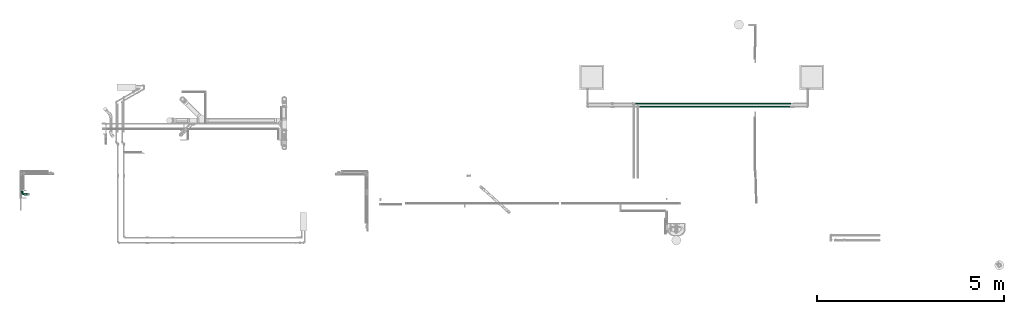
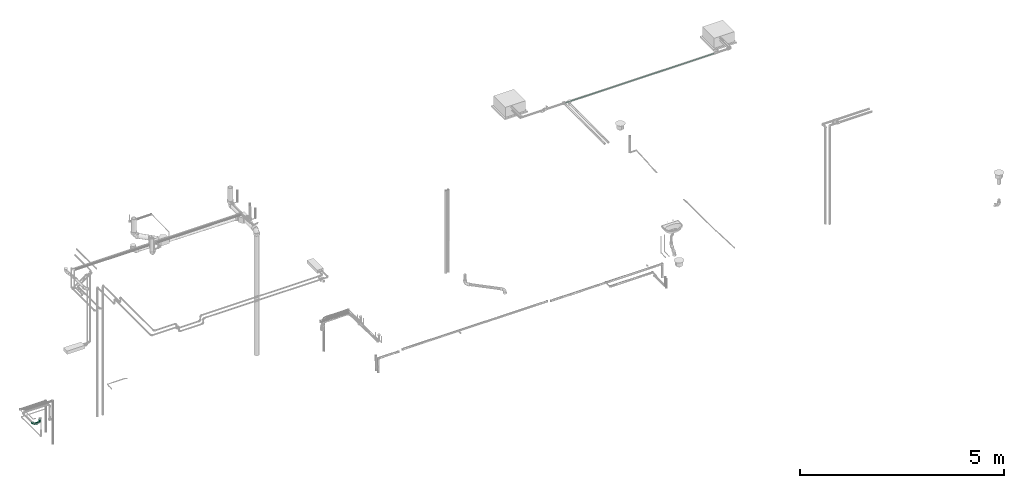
# One storey, part 32 of 108: 2 flow fittings, 2 flow segments.
"""IFC2X3 building model written with IfcOpenShell, lengths in millimetres."""

import ifcopenshell
import ifcopenshell.guid

model = None  # the IFC model being written
_history = None  # IfcOwnerHistory: only IFC2X3 demands one
_inside = {}  # id of a spatial element -> (the spatial element, [elements in it])
_under = {}  # id of a project, library or spatial element -> (it, [spatial elements below it])
_declared = {}  # id of a project -> (the project, [libraries it declares])
_typed = {}  # id of a type object -> (the type object, [elements of that type])
_made_of = {}  # id of a material, layer set ... -> (it, [elements and type objects made of it])


def new_model(schema):
    """Start an empty IFC model of exactly this schema.

    Asked for "IFC4X3", IfcOpenShell would pick the latest addendum, in which some entities
    have other attributes; the version numbers below select the first issue.
    IFC2X3 requires an IfcOwnerHistory on every rooted entity: one is made here for all.
    """
    global model, _history
    if schema == "IFC4X3":
        model = ifcopenshell.file(schema_version=(4, 3, 0, 0))
    else:
        model = ifcopenshell.file(schema=schema)
    _inside.clear()
    _under.clear()
    _declared.clear()
    _typed.clear()
    _made_of.clear()
    _history = None
    if model.schema == "IFC2X3":
        org = make("IfcOrganization", Name="unknown")
        user = make(
            "IfcPersonAndOrganization",
            ThePerson=make("IfcPerson", FamilyName="unknown"),
            TheOrganization=org,
        )
        app = make(
            "IfcApplication",
            ApplicationDeveloper=org,
            Version="unknown",
            ApplicationFullName="unknown",
            ApplicationIdentifier="unknown",
        )
        _history = make(
            "IfcOwnerHistory",
            OwningUser=user,
            OwningApplication=app,
            ChangeAction="ADDED",
            CreationDate=0,
        )
    return model


def make(cls, **values):
    """One entity of the class cls with the attributes given. An attribute that is None is left unset."""
    return model.create_entity(
        cls, **{name: value for name, value in values.items() if value is not None}
    )


def entity(cls, *values):
    """Any entity or typed value of the class cls, its attributes in the order of the schema. None: left unset."""
    e = model.create_entity(cls)
    for i, value in enumerate(values):
        if value is not None:
            e[i] = value
    return e


def rooted(cls, **values):
    """An entity with a GlobalId (a new one), such as an element, a storey or a relation."""
    return make(cls, GlobalId=ifcopenshell.guid.new(), OwnerHistory=_history, **values)


def si_unit(unit_type, name, prefix=None):
    """IfcSIUnit, for example si_unit("LENGTHUNIT", "METRE", prefix="MILLI")."""
    return make("IfcSIUnit", UnitType=unit_type, Prefix=prefix, Name=name)


def converted_unit(unit_type, name, factor, base, dimensions=None, offset=None):
    """IfcConversionBasedUnit, such as the inch: factor (a typed value) times the base unit."""
    return make(
        "IfcConversionBasedUnit"
        if offset is None
        else "IfcConversionBasedUnitWithOffset",
        ConversionOffset=offset,
        Dimensions=None
        if dimensions is None
        else entity("IfcDimensionalExponents", *dimensions),
        UnitType=unit_type,
        Name=name,
        ConversionFactor=make(
            "IfcMeasureWithUnit", ValueComponent=factor, UnitComponent=base
        ),
    )


def derived_unit(unit_type, elements):
    """IfcDerivedUnit: a product of units, each with its exponent."""
    return make(
        "IfcDerivedUnit",
        Elements=[
            make("IfcDerivedUnitElement", Unit=unit, Exponent=power)
            for unit, power in elements
        ],
        UnitType=unit_type,
    )


def assignment(units):
    """IfcUnitAssignment: the units of a project."""
    return None if units is None else make("IfcUnitAssignment", Units=units)


def point(xyz):
    """IfcCartesianPoint."""
    return None if xyz is None else make("IfcCartesianPoint", Coordinates=xyz)


def direction(xyz):
    """IfcDirection."""
    return None if xyz is None else make("IfcDirection", DirectionRatios=xyz)


def frame(location, z_axis=None, x_axis=None):
    """IfcAxis2Placement3D, a coordinate frame: its origin and axes. An axis left out is left unset."""
    return make(
        "IfcAxis2Placement3D",
        Location=point(location),
        Axis=direction(z_axis),
        RefDirection=direction(x_axis),
    )


def frame_2d(location, x_axis=None):
    """IfcAxis2Placement2D, a coordinate frame in the plane: its origin and x axis."""
    return make(
        "IfcAxis2Placement2D", Location=point(location), RefDirection=direction(x_axis)
    )


def origin_with_axes():
    """The frame at (0, 0, 0) with the z axis (0, 0, 1) and the x axis (1, 0, 0) written out."""
    return frame((0.0, 0.0, 0.0), z_axis=(0.0, 0.0, 1.0), x_axis=(1.0, 0.0, 0.0))


def origin_2d_with_axis():
    """The frame at (0, 0) in the plane with the x axis (1, 0) written out."""
    return frame_2d((0.0, 0.0), x_axis=(1.0, 0.0))


def place(relative_to, where):
    """IfcLocalPlacement: puts the frame where relative to a parent placement (None: the world)."""
    return make(
        "IfcLocalPlacement", PlacementRelTo=relative_to, RelativePlacement=where
    )


def context(
    kind, dimensions, precision=None, world=None, true_north=None, identifier=None
):
    """IfcGeometricRepresentationContext, for example the 3D "Model" context."""
    return make(
        "IfcGeometricRepresentationContext",
        ContextIdentifier=identifier,
        ContextType=kind,
        CoordinateSpaceDimension=dimensions,
        Precision=precision,
        WorldCoordinateSystem=world,
        TrueNorth=true_north,
    )


def subcontext(parent, identifier, kind, view, scale=None):
    """IfcGeometricRepresentationSubContext, for example "Body" below "Model"."""
    return make(
        "IfcGeometricRepresentationSubContext",
        ContextIdentifier=identifier,
        ContextType=kind,
        ParentContext=parent,
        TargetScale=scale,
        TargetView=view,
    )


def project(units=None, contexts=None):
    """IfcProject with its units and contexts."""
    return rooted(
        "IfcProject",
        Name="project",
        RepresentationContexts=contexts,
        UnitsInContext=assignment(units),
    )


def spatial(cls, under=None, at=None, **own):
    """A site, building, storey or space (cls), placed at a placement, below another one or the project."""
    s = rooted(cls, ObjectPlacement=at, **own)
    if under is not None:
        _under.setdefault(under.id(), (under, []))[1].append(s)
    return s


def profile(cls, at=None, kind="AREA", **sizes):
    """A parametric profile (cls). Its sizes go by their IFC names, for example OverallWidth=200.0."""
    return make(cls, ProfileType=kind, Position=at, **sizes)


def hollow_circle(**sizes):
    """IfcCircleHollowProfileDef."""
    return profile("IfcCircleHollowProfileDef", **sizes)


def extrude(swept, where, along, depth):
    """IfcExtrudedAreaSolid: the profile swept, set in the frame where, extruded along a direction by depth."""
    return make(
        "IfcExtrudedAreaSolid",
        SweptArea=swept,
        Position=where,
        ExtrudedDirection=direction(along),
        Depth=depth,
    )


def faces_of(points, faces, orient=None, outer=None):
    """IfcFace entities. A face is a list of loops; a loop is a list of indices into points, from 0.

    orient and outer hold one flag for each loop. By default every Orientation is true, the
    first loop of a face is its IfcFaceOuterBound and the others are IfcFaceBound.
    """
    made = []
    for i, loops in enumerate(faces):
        bounds = []
        for j, loop in enumerate(loops):
            is_outer = j == 0 if outer is None else outer[i][j]
            bounds.append(
                make(
                    "IfcFaceOuterBound" if is_outer else "IfcFaceBound",
                    Bound=make("IfcPolyLoop", Polygon=[points[k] for k in loop]),
                    Orientation=True if orient is None else orient[i][j],
                )
            )
        made.append(make("IfcFace", Bounds=bounds))
    return made


def open_shell(faces, orient=None, outer=None):
    """The faces of one IfcOpenShell. surface_model builds it on its shared points."""
    return ("IfcOpenShell", faces, orient, outer)


def surface_model(cls, points, shells):
    """IfcFaceBasedSurfaceModel or IfcShellBasedSurfaceModel (cls): surfaces that need not close."""
    shared = [point(p) for p in points]
    made = [make(c, CfsFaces=faces_of(shared, fs, o, b)) for c, fs, o, b in shells]
    if cls == "IfcFaceBasedSurfaceModel":
        return make(cls, FbsmFaces=made)
    return make(cls, SbsmBoundary=made)


def shape(context_of_items, identifier, shape_type, items):
    """IfcShapeRepresentation: the items that make up one representation, for example the "Body"."""
    return make(
        "IfcShapeRepresentation",
        ContextOfItems=context_of_items,
        RepresentationIdentifier=identifier,
        RepresentationType=shape_type,
        Items=items,
    )


def source(mapping_origin, context_of_items, identifier, shape_type, items):
    """IfcRepresentationMap: a shape defined once, which mapped items show again and again."""
    return make(
        "IfcRepresentationMap",
        MappingOrigin=mapping_origin,
        MappedRepresentation=shape(context_of_items, identifier, shape_type, items),
    )


def transform(
    local_origin,
    x_axis=None,
    y_axis=None,
    z_axis=None,
    scale=None,
    scale2=None,
    scale3=None,
    uniform=True,
):
    """IfcCartesianTransformationOperator3D, or its non-uniform kind. x_axis, y_axis, z_axis: its Axis1, 2, 3."""
    if uniform:
        return make(
            "IfcCartesianTransformationOperator3D",
            Axis1=direction(x_axis),
            Axis2=direction(y_axis),
            LocalOrigin=point(local_origin),
            Scale=scale,
            Axis3=direction(z_axis),
        )
    return make(
        "IfcCartesianTransformationOperator3DnonUniform",
        Axis1=direction(x_axis),
        Axis2=direction(y_axis),
        LocalOrigin=point(local_origin),
        Scale=scale,
        Axis3=direction(z_axis),
        Scale2=scale2,
        Scale3=scale3,
    )


def mapped(mapping_source, mapping_target):
    """IfcMappedItem: shows the shape of a source again, moved by a transform."""
    return make(
        "IfcMappedItem", MappingSource=mapping_source, MappingTarget=mapping_target
    )


def made_of(thing, what):
    """Note that an element or type object is made of a material, layer set ...; save() writes the relation."""
    if what is not None:
        _made_of.setdefault(what.id(), (what, []))[1].append(thing)
    return thing


def type_object(cls, material=None, **own):
    """A type object (cls), such as IfcWallType, which elements share."""
    return made_of(rooted(cls, **own), material)


def element(
    cls,
    number,
    at=None,
    inside=None,
    cuts=None,
    type_object=None,
    material=None,
    context=None,
    identifier="Body",
    shape_type=None,
    held_by="IfcProductDefinitionShape",
    body=None,
    shapes=None,
    **own,
):
    """One element of the class cls, such as IfcWall. Its Tag is "e" and its number.

    at: its placement. inside: the storey or other place that contains it. cuts: it is an
    opening in that element (IfcRelVoidsElement). A single representation is given by context,
    identifier, shape_type and body (its items); several are given by shapes. held_by: the class
    of the entity that holds the representations. save() writes the other relations.
    """
    e = rooted(cls, Tag="e%d" % number, ObjectPlacement=at, **own)
    if body is not None:
        shapes = [shape(context, identifier, shape_type, body)]
    if shapes is not None:
        e.Representation = make(held_by, Representations=shapes)
    if inside is not None:
        _inside.setdefault(inside.id(), (inside, []))[1].append(e)
    if cuts is not None:
        rooted(
            "IfcRelVoidsElement", RelatingBuildingElement=cuts, RelatedOpeningElement=e
        )
    if type_object is not None:
        _typed.setdefault(type_object.id(), (type_object, []))[1].append(e)
    return made_of(e, material)


def aggregate(whole, parts):
    """IfcRelAggregates: a whole, such as a stair, and the parts it consists of."""
    return rooted("IfcRelAggregates", RelatingObject=whole, RelatedObjects=parts)


def save(model, path):
    """Write the relations noted so far, then the file.

    IfcRelAggregates (storeys below a building ...), IfcRelContainedInSpatialStructure (elements
    in a storey), IfcRelDefinesByType, IfcRelAssociatesMaterial and IfcRelDeclares: one each for
    every whole, place, type object, material and project.
    """
    for whole, parts in _under.values():
        aggregate(whole, parts)
    for where, things in _inside.values():
        rooted(
            "IfcRelContainedInSpatialStructure",
            RelatedElements=things,
            RelatingStructure=where,
        )
    for kind, things in _typed.values():
        rooted("IfcRelDefinesByType", RelatedObjects=things, RelatingType=kind)
    for what, things in _made_of.values():
        rooted("IfcRelAssociatesMaterial", RelatedObjects=things, RelatingMaterial=what)
    for by, libraries in _declared.values():
        rooted("IfcRelDeclares", RelatingContext=by, RelatedDefinitions=libraries)
    model.write(path)


model = new_model("IFC2X3")

# Units and contexts
model_context = context("Model", 3, precision=0.01, world=frame((0.0, 4.29681676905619e-09, 0.0)), true_north=direction((4.01073788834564e-13, 1.0)))
plan_context = context("Plan", 3, precision=0.01, world=frame((0.0, 4.29681676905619e-09, 0.0)), true_north=direction((4.01073788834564e-13, 1.0)))
body_context = subcontext(model_context, "Body", "Model", "MODEL_VIEW")
ifc_project = project(units=[converted_unit("PLANEANGLEUNIT", "DEGREE", entity("IfcPositiveLengthMeasure", 0.0174532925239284), si_unit("PLANEANGLEUNIT", "RADIAN"), dimensions=[0, 0, 0, 0, 0, 0, 0]), si_unit("AREAUNIT", "SQUARE_METRE"), si_unit("LENGTHUNIT", "METRE", prefix="MILLI"), si_unit("MASSUNIT", "GRAM", prefix="KILO"), si_unit("POWERUNIT", "WATT"), si_unit("PRESSUREUNIT", "PASCAL", prefix="KILO"), si_unit("FORCEUNIT", "NEWTON", prefix="KILO"), si_unit("ELECTRICVOLTAGEUNIT", "VOLT"), si_unit("ELECTRICCURRENTUNIT", "AMPERE"), si_unit("THERMODYNAMICTEMPERATUREUNIT", "DEGREE_CELSIUS"), si_unit("TIMEUNIT", "SECOND"), si_unit("VOLUMEUNIT", "CUBIC_METRE"), derived_unit("LINEARVELOCITYUNIT", [(si_unit("LENGTHUNIT", "METRE"), 1), (si_unit("TIMEUNIT", "SECOND"), -1)]), derived_unit("VOLUMETRICFLOWRATEUNIT", [(si_unit("VOLUMEUNIT", "CUBIC_METRE"), 1), (si_unit("TIMEUNIT", "SECOND"), -1)]), derived_unit("THERMALTRANSMITTANCEUNIT", [(si_unit("POWERUNIT", "WATT"), 1), (si_unit("THERMODYNAMICTEMPERATUREUNIT", "KELVIN"), -1), (si_unit("AREAUNIT", "SQUARE_METRE"), -1)]), derived_unit("SOUNDPRESSUREUNIT", [(si_unit("PRESSUREUNIT", "PASCAL"), 1)])], contexts=[model_context, plan_context])

# Site, building, storey
site_placement = place(None, frame((0.0, -4.29681676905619e-09, 0.0), z_axis=(0.0, 0.0, 1.0), x_axis=(1.0, 0.0, 0.0)))
site = spatial("IfcSite", under=ifc_project, at=site_placement, CompositionType="ELEMENT")
building_placement = place(site_placement, frame((0.0, 4.29681676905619e-09, 0.0), z_axis=(0.0, 0.0, 1.0), x_axis=(1.0, 0.0, 0.0)))
building = spatial("IfcBuilding", under=site, at=building_placement, Name="mc-building", CompositionType="ELEMENT")
storey_placement = place(building_placement, frame((0.0, 0.0, 210200.0), z_axis=(0.0, 0.0, 1.0), x_axis=(1.0, 0.0, 0.0)))
storey = spatial("IfcBuildingStorey", under=building, at=storey_placement, Name="Nivå F - 0,7 m", CompositionType="ELEMENT", Elevation=210200.0)

# Flow fittings
pipe_fitting_type = type_object("IfcPipeFittingType", Name="magi_sewer_bend_001", PredefinedType="BEND")
shared_shape_1 = source(origin_with_axes(), body_context, "Body", "SurfaceModel", [
    surface_model("IfcShellBasedSurfaceModel", [(-85.0, -16.25, -28.14582), (-85.0, 0.0, -32.5), (-85.0, -8.41162, -31.39259), (-85.0, -31.39259, -8.41162), (-85.0, -22.98097, -22.98097), (-85.0, 22.98097, -22.98097), (-85.0, -28.14582, -16.25), (-85.0, 31.39259, 8.41162), (-85.0, 16.25, -28.14582), (-85.0, 8.41162, -31.39259), (-85.0, 31.39259, -8.41162), (-85.0, 28.14582, -16.25), (-85.0, -32.5, 0.0), (-85.0, -31.39259, 8.41162), (-85.0, -16.25, 28.14582), (-85.0, -28.14582, 16.25), (-85.0, -22.98097, 22.98097), (-85.0, -8.41162, 31.39259), (-85.0, 0.0, 32.5), (-85.0, 22.98097, 22.98097), (-85.0, 28.14582, 16.25), (-85.0, 32.5, 0.0), (-85.0, 16.25, 28.14582), (-85.0, 8.41162, 31.39259), (-55.0, 0.0, 32.5), (-55.0, -8.41162, 31.39259), (-55.0, -16.25, 28.14582), (-55.0, -28.14582, 16.25), (-55.0, -31.39259, 8.41162), (-55.0, -22.98097, 22.98097), (-55.0, 31.39259, 8.41162), (-55.0, 22.98097, 22.98097), (-55.0, 16.25, 28.14582), (-55.0, 8.41162, 31.39259), (-55.0, 28.14582, 16.25), (-55.0, 31.39259, -8.41162), (-55.0, 32.5, 0.0), (-55.0, -16.25, -28.14582), (-55.0, -31.39259, -8.41162), (-55.0, -22.98097, -22.98097), (-55.0, -28.14582, -16.25), (-55.0, -8.41162, -31.39259), (-55.0, 0.0, -32.5), (-55.0, 22.98097, -22.98097), (-55.0, 28.14582, -16.25), (-55.0, 16.25, -28.14582), (-55.0, 8.41162, -31.39259), (-55.0, -32.5, 0.0), (-28.14582, 85.0, 16.25), (-32.5, 85.0, 0.0), (-31.39259, 85.0, 8.41162), (-8.41162, 85.0, 31.39259), (-22.98097, 85.0, 22.98097), (-28.14582, 85.0, -16.25), (-16.25, 85.0, 28.14582), (8.41162, 85.0, -31.39259), (-22.98097, 85.0, -22.98097), (-31.39259, 85.0, -8.41162), (-8.41162, 85.0, -31.39259), (-16.25, 85.0, -28.14582), (0.0, 85.0, 32.5), (8.41162, 85.0, 31.39259), (32.5, 85.0, 0.0), (16.25, 85.0, 28.14582), (28.14582, 85.0, 16.25), (22.98097, 85.0, 22.98097), (31.39259, 85.0, 8.41162), (22.98097, 85.0, -22.98097), (16.25, 85.0, -28.14582), (0.0, 85.0, -32.5), (31.39259, 85.0, -8.41162), (28.14582, 85.0, -16.25), (32.5, 55.0, 0.0), (31.39259, 55.0, 8.41162), (28.14582, 55.0, 16.25), (16.25, 55.0, 28.14582), (8.41162, 55.0, 31.39259), (22.98097, 55.0, 22.98097), (8.41162, 55.0, -31.39259), (31.39259, 55.0, -8.41162), (22.98097, 55.0, -22.98097), (28.14582, 55.0, -16.25), (16.25, 55.0, -28.14582), (-8.41162, 55.0, -31.39259), (0.0, 55.0, -32.5), (-8.41162, 55.0, 31.39259), (-22.98097, 55.0, 22.98097), (-16.25, 55.0, 28.14582), (-28.14582, 55.0, 16.25), (-31.39259, 55.0, 8.41162), (-22.98097, 55.0, -22.98097), (-16.25, 55.0, -28.14582), (-28.14582, 55.0, -16.25), (-32.5, 55.0, 0.0), (-31.39259, 55.0, -8.41162), (0.0, 55.0, 32.5), (-55.0, 13.75, -23.8157), (-55.0, 7.11752, -26.56296), (-55.0, 0.0, -27.5), (-55.0, -19.44544, -19.44544), (-55.0, 26.56296, -7.11752), (-55.0, 23.8157, -13.75), (-55.0, 19.44544, -19.44544), (-55.0, -26.56296, -7.11752), (-55.0, 23.8157, 13.75), (-55.0, -7.11752, -26.56296), (-55.0, -13.75, -23.8157), (-55.0, -23.8157, -13.75), (-55.0, -27.5, 0.0), (-55.0, -26.56296, 7.11752), (-55.0, 26.56296, 7.11752), (-55.0, -13.75, 23.8157), (-55.0, 13.75, 23.8157), (-55.0, 19.44544, 19.44544), (-55.0, 0.0, 27.5), (-55.0, 7.11752, 26.56296), (-55.0, -19.44544, 19.44544), (-55.0, -23.8157, 13.75), (-55.0, -7.11752, 26.56296), (-55.0, 27.5, 0.0), (0.0, 55.0, -27.5), (-7.11752, 55.0, -26.56296), (-13.75, 55.0, -23.8157), (19.44544, 55.0, -19.44544), (-23.8157, 55.0, -13.75), (-26.56296, 55.0, -7.11752), (-19.44544, 55.0, -19.44544), (-23.8157, 55.0, 13.75), (26.56296, 55.0, -7.11752), (13.75, 55.0, -23.8157), (7.11752, 55.0, -26.56296), (23.8157, 55.0, -13.75), (26.56296, 55.0, 7.11752), (27.5, 55.0, 0.0), (-26.56296, 55.0, 7.11752), (13.75, 55.0, 23.8157), (0.0, 55.0, 27.5), (-19.44544, 55.0, 19.44544), (-13.75, 55.0, 23.8157), (-7.11752, 55.0, 26.56296), (23.8157, 55.0, 13.75), (19.44544, 55.0, 19.44544), (7.11752, 55.0, 26.56296), (-27.5, 55.0, 0.0), (-40.34508, -21.3645, 15.43776), (-36.11265, -15.86568, 20.49181), (-39.21431, -24.36003, 0.0), (-24.30958, -17.51304, 13.87969), (-36.54887, -24.0023, 8.5767), (24.0023, 36.54887, 8.5767), (19.40474, 21.54255, 7.0497), (21.22006, 23.42862, 0.0), (-26.88142, 43.89149, 11.95246), (-22.97263, 42.81437, 18.06658), (-40.42024, -10.39895, 24.74154), (-42.0112, -3.643, 27.02968), (-38.50893, 4.21538, 27.45313), (-10.04615, -12.27819, 0.0), (-21.54255, -19.40474, 7.0497), (-23.42862, -21.22006, 0.0), (-21.24677, -6.67435, 22.84645), (-27.37882, -0.24679, 26.65447), (-2.36662, -4.64876, 12.39086), (-0.46092, 0.56745, 16.42693), (-9.34812, -6.58549, 16.94293), (-42.98894, 22.92462, 18.04737), (-9.55753, 27.04347, 27.45066), (-20.36965, 20.36965, 26.83181), (-16.3749, 12.01727, 27.35834), (-47.57862, 16.65353, 22.40766), (-10.26525, 47.43568, 25.75866), (-3.76899, 41.13612, 27.43246), (-43.90516, 26.87698, 11.95063), (-43.47658, 29.29156, 6.0463), (-34.14489, 34.14489, 10.27973), (-42.39145, 10.78537, 25.97769), (-7.17827, 18.41878, 27.00219), (-13.66419, 5.04493, 25.67946), (-2.80938, 14.85749, 25.27217), (-4.91229, 4.91229, 22.48358), (15.86568, 36.11265, 20.49181), (17.51304, 24.30958, 13.87969), (21.3645, 40.34508, 15.43776), (-29.2357, 18.65947, 25.43589), (-30.21906, 11.77954, 27.00787), (3.643, 42.0112, 27.02968), (10.39895, 40.42024, 24.74154), (6.67435, 21.24677, 22.84645), (24.36003, 39.21431, 0.0), (-26.98474, 6.73868, 27.48826), (-25.45798, 29.04041, 22.59677), (-37.86875, 18.66748, 23.15784), (-28.94724, 44.36378, 5.89962), (-34.4653, 36.06938, 4.83982), (12.55215, 22.27414, 18.80888), (-31.1843, 41.25, 0.0), (-11.89324, 37.26317, 26.18991), (-15.69265, 28.46717, 26.43592), (-19.93738, 35.5439, 23.11297), (-21.90889, 26.62411, 25.02188), (-16.80054, 46.11303, 22.52174), (-22.27414, -12.55215, 18.80888), (-28.52029, 36.45365, 15.56472), (-28.98784, 30.71169, 19.4795), (-35.31962, 29.54913, 15.33464), (0.24679, 27.37882, 26.65447), (6.26221, 9.55167, 17.41895), (-13.05224, -12.27595, 12.90831), (1.63283, -3.57188, 7.44312), (8.35093, 4.898, 9.60387), (8.52925, 2.85464, 4.12118), (14.16423, 11.47104, 6.49556), (13.80727, 14.2658, 11.54179), (-41.25, 31.1843, 0.0), (-7.41178, -10.93595, 7.98446), (3.33631, -3.33631, 0.0), (12.27819, 10.04615, 0.0), (-22.27414, -12.55215, -18.80888), (-36.11265, -15.86568, -20.49181), (-21.24677, -6.67435, -22.84645), (-24.30958, -17.51304, -13.87969), (-42.81437, 22.97263, -18.06658), (-46.11303, 16.80054, -22.52174), (-44.36378, 28.94724, -5.89962), (-36.54887, -24.0023, -8.5767), (-34.14489, 34.14489, -10.27973), (-43.89149, 26.88142, -11.95246), (-21.54255, -19.40474, -7.0497), (-26.62411, 21.90888, -25.02188), (-28.46717, 15.69265, -26.43592), (-35.5439, 19.93738, -23.11297), (-16.65353, 47.57862, -22.40766), (-22.92462, 42.98894, -18.04737), (10.39895, 40.42024, -24.74154), (6.67435, 21.24677, -22.84645), (0.24679, 27.37882, -26.65446), (-47.43568, 10.26525, -25.75866), (-40.34508, -21.3645, -15.43776), (-40.42024, -10.39895, -24.74154), (-18.65947, 29.2357, -25.43589), (-10.78537, 42.39145, -25.97769), (-11.77954, 30.21906, -27.00787), (-42.0112, -3.643, -27.02968), (-27.04347, 9.55753, -27.45066), (-20.36965, 20.36965, -26.83181), (-12.01727, 16.3749, -27.35834), (-41.13612, 3.76899, -27.43246), (-29.29156, 43.47658, -6.0463), (-26.87698, 43.90516, -11.95063), (-37.26317, 11.89324, -26.18991), (-36.06938, 34.4653, -4.83982), (-6.73868, 26.98473, -27.48826), (-29.04041, 25.45798, -22.59677), (-18.66747, 37.86875, -23.15784), (3.643, 42.0112, -27.02968), (-4.21538, 38.50893, -27.45313), (21.3645, 40.34508, -15.43776), (15.86568, 36.11265, -20.49181), (8.52925, 2.85464, -4.12118), (14.16423, 11.47104, -6.49556), (-18.41878, 7.17827, -27.00219), (-5.04493, 13.66419, -25.67946), (-14.85749, 2.80937, -25.27217), (1.63283, -3.57188, -7.44312), (-7.41178, -10.93595, -7.98446), (-2.36662, -4.64876, -12.39086), (17.51304, 24.30958, -13.87969), (24.0023, 36.54887, -8.5767), (19.40474, 21.54255, -7.0497), (-36.45365, 28.52029, -15.56472), (12.55215, 22.27414, -18.80888), (13.80727, 14.2658, -11.54179), (6.26221, 9.55167, -17.41895), (-30.7117, 28.98784, -19.4795), (-29.54913, 35.31962, -15.33464), (-27.37882, -0.24679, -26.65446), (-4.91229, 4.91228, -22.48358), (-9.34812, -6.58549, -16.94293), (-13.05224, -12.27595, -12.90831), (-0.46092, 0.56745, -16.42692), (8.35093, 4.898, -9.60387)], [open_shell([[[0, 1, 2]], [[3, 0, 4]], [[0, 3, 5]], [[3, 4, 6]], [[5, 3, 7]], [[1, 8, 9]], [[8, 1, 5]], [[5, 10, 11]], [[5, 1, 0]], [[5, 7, 10]], [[3, 12, 13]], [[14, 13, 15]], [[14, 15, 16]], [[14, 17, 18]], [[13, 14, 7]], [[7, 14, 18]], [[7, 19, 20]], [[21, 10, 7]], [[18, 19, 7]], [[18, 22, 19]], [[23, 22, 18]], [[7, 3, 13]], [[24, 25, 26]], [[24, 26, 27]], [[27, 28, 24]], [[27, 26, 29]], [[24, 28, 30]], [[24, 31, 32]], [[32, 33, 24]], [[31, 30, 34]], [[30, 31, 24]], [[30, 35, 36]], [[30, 28, 37]], [[28, 38, 37]], [[39, 38, 40]], [[41, 30, 37]], [[37, 38, 39]], [[30, 41, 42]], [[35, 43, 44]], [[35, 30, 43]], [[45, 42, 46]], [[42, 45, 43]], [[42, 43, 30]], [[38, 28, 47]], [[35, 10, 36]], [[44, 11, 35]], [[8, 43, 45]], [[44, 43, 5]], [[9, 45, 46]], [[35, 11, 10]], [[10, 21, 36]], [[9, 8, 45]], [[5, 43, 8]], [[5, 11, 44]], [[1, 9, 46]], [[46, 42, 1]], [[2, 42, 41]], [[0, 41, 37]], [[6, 40, 38]], [[3, 38, 47]], [[41, 0, 2]], [[0, 37, 39]], [[0, 39, 4]], [[39, 40, 4]], [[4, 40, 6]], [[6, 38, 3]], [[47, 12, 3]], [[42, 2, 1]], [[28, 13, 47]], [[27, 15, 28]], [[14, 29, 26]], [[27, 29, 16]], [[17, 26, 25]], [[28, 15, 13]], [[13, 12, 47]], [[17, 14, 26]], [[16, 29, 14]], [[16, 15, 27]], [[18, 17, 25]], [[25, 24, 18]], [[22, 32, 31]], [[20, 34, 30]], [[31, 34, 19]], [[7, 30, 36]], [[33, 22, 23]], [[33, 32, 22]], [[23, 18, 33]], [[31, 19, 22]], [[34, 20, 19]], [[7, 20, 30]], [[36, 21, 7]], [[33, 18, 24]], [[48, 49, 50]], [[51, 48, 52]], [[53, 48, 51]], [[51, 52, 54]], [[51, 55, 56]], [[49, 53, 57]], [[49, 48, 53]], [[56, 58, 59]], [[53, 51, 56]], [[56, 55, 58]], [[51, 60, 61]], [[62, 61, 63]], [[64, 63, 65]], [[64, 66, 62]], [[64, 62, 63]], [[61, 62, 55]], [[55, 67, 68]], [[69, 58, 55]], [[67, 70, 71]], [[67, 55, 62]], [[70, 67, 62]], [[55, 51, 61]], [[72, 73, 74]], [[72, 74, 75]], [[75, 76, 72]], [[75, 74, 77]], [[72, 76, 78]], [[79, 80, 81]], [[79, 72, 80]], [[80, 78, 82]], [[72, 78, 80]], [[78, 83, 84]], [[78, 76, 85]], [[83, 78, 85]], [[86, 85, 87]], [[85, 88, 83]], [[88, 85, 86]], [[89, 90, 88]], [[83, 90, 91]], [[83, 88, 90]], [[92, 93, 94]], [[93, 92, 90]], [[89, 93, 90]], [[85, 76, 95]], [[83, 58, 84]], [[91, 59, 83]], [[53, 90, 92]], [[91, 90, 56]], [[57, 92, 94]], [[83, 59, 58]], [[58, 69, 84]], [[57, 53, 92]], [[56, 90, 53]], [[56, 59, 91]], [[49, 57, 94]], [[94, 93, 49]], [[50, 93, 89]], [[48, 89, 88]], [[54, 87, 85]], [[51, 85, 95]], [[89, 48, 50]], [[48, 88, 86]], [[48, 86, 52]], [[86, 87, 52]], [[52, 87, 54]], [[54, 85, 51]], [[95, 60, 51]], [[93, 50, 49]], [[76, 61, 95]], [[75, 63, 76]], [[64, 77, 74]], [[75, 77, 65]], [[66, 74, 73]], [[76, 63, 61]], [[61, 60, 95]], [[66, 64, 74]], [[65, 77, 64]], [[65, 63, 75]], [[62, 66, 73]], [[73, 72, 62]], [[71, 81, 80]], [[68, 82, 78]], [[80, 82, 67]], [[55, 78, 84]], [[79, 71, 70]], [[79, 81, 71]], [[70, 62, 79]], [[80, 67, 71]], [[82, 68, 67]], [[55, 68, 78]], [[84, 69, 55]], [[79, 62, 72]], [[96, 97, 98]], [[96, 98, 99]], [[96, 100, 101]], [[102, 96, 101]], [[96, 103, 104]], [[105, 106, 98]], [[106, 99, 98]], [[107, 103, 99]], [[99, 103, 96]], [[108, 109, 103]], [[100, 96, 110]], [[104, 110, 96]], [[103, 111, 104]], [[112, 113, 114]], [[114, 113, 104]], [[115, 112, 114]], [[116, 111, 117]], [[117, 103, 109]], [[118, 114, 111]], [[111, 103, 117]], [[104, 111, 114]], [[119, 100, 110]], [[120, 121, 122]], [[123, 120, 122]], [[124, 125, 122]], [[124, 122, 126]], [[127, 128, 122]], [[120, 129, 130]], [[120, 123, 129]], [[123, 128, 131]], [[122, 128, 123]], [[128, 132, 133]], [[134, 122, 125]], [[134, 127, 122]], [[127, 135, 128]], [[136, 137, 138]], [[127, 137, 136]], [[138, 139, 136]], [[140, 135, 141]], [[132, 128, 140]], [[135, 136, 142]], [[140, 128, 135]], [[136, 135, 127]], [[143, 134, 125]], [[116, 144, 145]], [[109, 108, 146]], [[147, 144, 148]], [[149, 150, 151]], [[144, 116, 117]], [[109, 148, 117]], [[127, 152, 153]], [[145, 111, 116]], [[145, 154, 111]], [[114, 155, 156]], [[157, 158, 159]], [[154, 160, 161]], [[162, 163, 164]], [[104, 113, 165]], [[166, 167, 168]], [[112, 169, 113]], [[118, 155, 114]], [[139, 170, 171]], [[114, 156, 115]], [[104, 165, 172]], [[113, 169, 165]], [[119, 110, 173]], [[110, 104, 172]], [[173, 172, 174]], [[115, 175, 112]], [[176, 177, 178]], [[164, 179, 160]], [[180, 141, 135]], [[181, 182, 180]], [[183, 175, 184]], [[111, 154, 118]], [[136, 185, 142]], [[149, 132, 140]], [[136, 139, 171]], [[180, 186, 187]], [[140, 182, 149]], [[188, 132, 149]], [[182, 140, 141]], [[186, 135, 142]], [[149, 151, 188]], [[184, 189, 168]], [[150, 149, 181]], [[183, 190, 191]], [[174, 192, 193]], [[194, 180, 187]], [[195, 192, 143]], [[175, 115, 156]], [[192, 174, 152]], [[158, 148, 159]], [[153, 137, 127]], [[196, 166, 171]], [[197, 198, 199]], [[109, 146, 148]], [[200, 138, 137]], [[170, 139, 138]], [[153, 198, 200]], [[201, 160, 145]], [[186, 180, 135]], [[127, 134, 152]], [[152, 202, 153]], [[198, 153, 203]], [[191, 203, 165]], [[172, 204, 174]], [[196, 197, 166]], [[185, 171, 205]], [[160, 154, 145]], [[159, 148, 146]], [[155, 154, 161]], [[201, 145, 147]], [[160, 179, 177]], [[185, 186, 142]], [[133, 132, 188]], [[205, 178, 187]], [[205, 187, 186]], [[187, 179, 206]], [[207, 164, 201]], [[162, 164, 207]], [[158, 147, 148]], [[162, 208, 209]], [[210, 211, 209]], [[194, 181, 180]], [[148, 144, 117]], [[145, 144, 147]], [[180, 182, 141]], [[149, 182, 181]], [[184, 175, 156]], [[169, 175, 191]], [[192, 152, 134]], [[174, 204, 202]], [[183, 199, 190]], [[196, 170, 200]], [[204, 165, 203]], [[174, 193, 173]], [[184, 168, 167]], [[205, 171, 166]], [[177, 168, 161]], [[166, 168, 176]], [[171, 185, 136]], [[186, 185, 205]], [[154, 155, 118]], [[156, 155, 161]], [[163, 179, 164]], [[206, 209, 212]], [[184, 156, 189]], [[183, 184, 167]], [[199, 183, 167]], [[175, 183, 191]], [[197, 199, 167]], [[190, 199, 198]], [[143, 192, 134]], [[192, 195, 193]], [[195, 213, 193]], [[193, 213, 173]], [[119, 173, 213]], [[110, 172, 173]], [[156, 161, 189]], [[161, 168, 189]], [[166, 197, 167]], [[198, 197, 196]], [[165, 204, 172]], [[202, 204, 203]], [[153, 202, 203]], [[174, 202, 152]], [[153, 200, 137]], [[196, 200, 198]], [[198, 203, 190]], [[191, 190, 203]], [[160, 177, 161]], [[178, 177, 179]], [[187, 178, 179]], [[176, 178, 205]], [[166, 176, 205]], [[177, 176, 168]], [[175, 169, 112]], [[165, 169, 191]], [[200, 170, 138]], [[171, 170, 196]], [[158, 157, 214]], [[207, 158, 214]], [[209, 211, 212]], [[215, 214, 157]], [[207, 201, 147]], [[209, 208, 210]], [[216, 151, 150]], [[164, 160, 201]], [[187, 206, 194]], [[212, 194, 206]], [[158, 207, 147]], [[162, 207, 214]], [[208, 162, 214]], [[163, 209, 206]], [[214, 215, 208]], [[210, 208, 215]], [[215, 216, 210]], [[211, 216, 150]], [[216, 211, 210]], [[212, 150, 181]], [[150, 212, 211]], [[212, 181, 194]], [[209, 163, 162]], [[179, 163, 206]], [[217, 218, 219]], [[218, 217, 220]], [[101, 221, 102]], [[102, 222, 96]], [[213, 223, 119]], [[146, 103, 224]], [[223, 225, 226]], [[224, 227, 159]], [[228, 229, 230]], [[126, 231, 232]], [[233, 234, 235]], [[96, 236, 97]], [[224, 107, 237]], [[238, 106, 105]], [[224, 159, 146]], [[101, 100, 226]], [[107, 99, 237]], [[239, 240, 241]], [[242, 105, 98]], [[243, 244, 245]], [[107, 224, 103]], [[220, 237, 218]], [[246, 98, 97]], [[247, 248, 225]], [[221, 230, 222]], [[249, 243, 246]], [[223, 250, 225]], [[241, 251, 245]], [[143, 125, 247]], [[239, 252, 253]], [[248, 125, 124]], [[120, 254, 255]], [[218, 99, 106]], [[126, 122, 231]], [[240, 122, 121]], [[123, 256, 257]], [[120, 130, 254]], [[216, 258, 259]], [[226, 221, 101]], [[126, 232, 124]], [[97, 236, 246]], [[129, 257, 233]], [[238, 218, 106]], [[120, 255, 121]], [[260, 261, 262]], [[263, 264, 265]], [[131, 256, 123]], [[257, 129, 123]], [[266, 256, 267]], [[227, 224, 220]], [[133, 188, 128]], [[128, 188, 267]], [[268, 267, 151]], [[128, 267, 131]], [[240, 121, 255]], [[226, 269, 221]], [[270, 271, 272]], [[232, 248, 124]], [[129, 233, 130]], [[218, 238, 219]], [[230, 221, 273]], [[253, 273, 232]], [[248, 274, 225]], [[249, 229, 243]], [[242, 246, 275]], [[242, 238, 105]], [[108, 103, 146]], [[275, 262, 219]], [[275, 219, 238]], [[219, 276, 277]], [[234, 233, 257]], [[151, 267, 188]], [[254, 233, 235]], [[270, 257, 266]], [[234, 276, 261]], [[276, 234, 272]], [[220, 217, 278]], [[272, 279, 276]], [[157, 227, 264]], [[265, 264, 278]], [[268, 266, 267]], [[218, 237, 99]], [[224, 237, 220]], [[267, 256, 131]], [[257, 256, 266]], [[241, 240, 255]], [[231, 240, 253]], [[223, 226, 100]], [[225, 274, 269]], [[239, 228, 252]], [[249, 236, 222]], [[274, 232, 273]], [[225, 250, 247]], [[241, 245, 244]], [[275, 246, 243]], [[261, 245, 235]], [[243, 245, 260]], [[246, 242, 98]], [[238, 242, 275]], [[233, 254, 130]], [[255, 254, 235]], [[270, 234, 257]], [[280, 265, 279]], [[241, 255, 251]], [[239, 241, 244]], [[228, 239, 244]], [[240, 239, 253]], [[229, 228, 244]], [[252, 228, 230]], [[119, 223, 100]], [[223, 213, 250]], [[213, 195, 250]], [[250, 195, 247]], [[143, 247, 195]], [[125, 248, 247]], [[255, 235, 251]], [[235, 245, 251]], [[243, 229, 244]], [[230, 229, 249]], [[232, 274, 248]], [[269, 274, 273]], [[221, 269, 273]], [[225, 269, 226]], [[221, 222, 102]], [[249, 222, 230]], [[230, 273, 252]], [[253, 252, 273]], [[234, 261, 235]], [[262, 261, 276]], [[219, 262, 276]], [[260, 262, 275]], [[243, 260, 275]], [[261, 260, 245]], [[240, 231, 122]], [[232, 231, 253]], [[222, 236, 96]], [[246, 236, 249]], [[278, 227, 220]], [[264, 215, 157]], [[215, 263, 258]], [[159, 227, 157]], [[268, 259, 271]], [[268, 151, 216]], [[219, 277, 217]], [[278, 217, 277]], [[271, 270, 266]], [[272, 234, 270]], [[265, 278, 277]], [[227, 278, 264]], [[279, 265, 277]], [[263, 265, 280]], [[258, 263, 280]], [[215, 264, 263]], [[259, 258, 280]], [[216, 215, 258]], [[271, 259, 280]], [[216, 259, 268]], [[272, 271, 280]], [[268, 271, 266]], [[276, 279, 277]], [[280, 279, 272]]])]),
])
for number, where, z_axis, x_axis, name in (
    (1, (322049.16821, 461555.55163, 496.788960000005), (0.0, 1.0, 0.0), (0.0, 0.0, -1.0), "magi_sewer_bend_001"),
    (2, (321884.16821, 461555.55163, 496.788960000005), (0.0, 0.00997900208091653, 0.999950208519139), (0.0, -0.999950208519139, 0.00997900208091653), "magi_sewer_bend_001"),
):
    element("IfcFlowFitting", number, at=place(storey_placement, frame(where, z_axis=z_axis, x_axis=x_axis)), inside=storey, type_object=pipe_fitting_type, Name=name, context=body_context, shape_type="MappedRepresentation", body=[
        mapped(shared_shape_1, transform((0.0, 0.0, 0.0), scale=1.0)),
    ])

# Flow segments
pipe_segment_type = type_object("IfcPipeSegmentType", Name="Stålrør normaltykke", PredefinedType="RIGIDSEGMENT")
shared_shape_2 = source(origin_with_axes(), body_context, "Body", "SweptSolid", [
    extrude(hollow_circle(Radius=13.3, WallThickness=2.0, at=origin_2d_with_axis()), frame((0.0, 0.0, 0.0), z_axis=(1.0, 0.0, 0.0), x_axis=(0.0, 1.0, 0.0)), (0.0, 0.0, 1.0), 4172.6),
])
flow_segment_1_placement = place(storey_placement, frame((338312.86087, 463983.47358, 2880.0), z_axis=(0.0, 0.0, 1.0), x_axis=(1.0, 0.0, 0.0)))
element("IfcFlowSegment", 3, at=flow_segment_1_placement, inside=storey, type_object=pipe_segment_type, Name="Stålrør normaltykke", context=body_context, shape_type="MappedRepresentation", body=[
    mapped(shared_shape_2, transform((0.0, 0.0, 0.0), scale=1.0)),
])
shared_shape_3 = source(origin_with_axes(), body_context, "Body", "SweptSolid", [
    extrude(hollow_circle(Radius=13.3, WallThickness=2.0, at=origin_2d_with_axis()), frame((0.0, 0.0, 0.0), z_axis=(1.0, 0.0, 0.0), x_axis=(0.0, 1.0, 0.0)), (0.0, 0.0, 1.0), 4051.1),
])
flow_segment_2_placement = place(storey_placement, frame((338410.95721, 463903.47358, 2948.0), z_axis=(0.0, 0.0, 1.0), x_axis=(1.0, 0.0, 0.0)))
element("IfcFlowSegment", 4, at=flow_segment_2_placement, inside=storey, type_object=pipe_segment_type, Name="Stålrør normaltykke", context=body_context, shape_type="MappedRepresentation", body=[
    mapped(shared_shape_3, transform((0.0, 0.0, 0.0), scale=1.0)),
])

save(model, "model.ifc")
